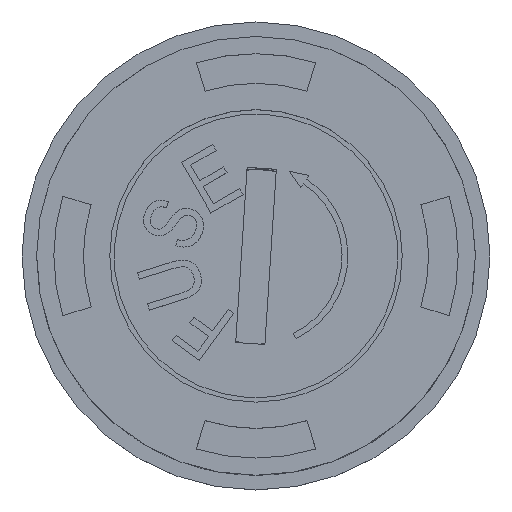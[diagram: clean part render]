
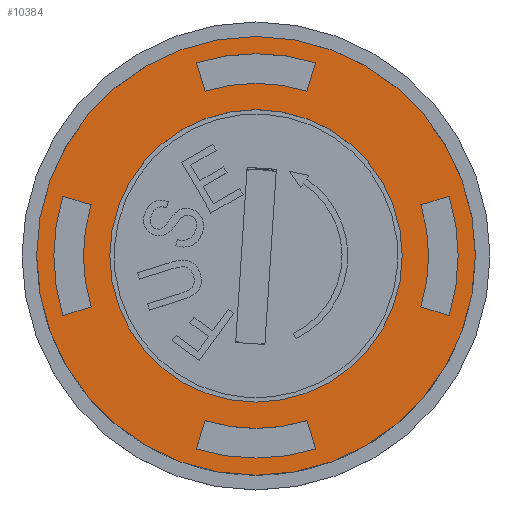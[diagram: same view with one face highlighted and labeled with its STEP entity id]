
A CAD part, top view. The second image highlights one B-rep face of the part: STEP entity #10384.
In plain terms, the highlighted planar face has unit normal (0, 0, 1).
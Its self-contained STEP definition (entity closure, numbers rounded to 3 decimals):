
#73=FACE_BOUND('',#1864,.T.);
#74=FACE_BOUND('',#1865,.T.);
#75=FACE_BOUND('',#1866,.T.);
#76=FACE_BOUND('',#1867,.T.);
#77=FACE_BOUND('',#1868,.T.);
#356=PLANE('',#11109);
#1308=FACE_OUTER_BOUND('',#1863,.T.);
#1863=EDGE_LOOP('',(#9487,#9488));
#1864=EDGE_LOOP('',(#9489,#9490,#9491,#9492));
#1865=EDGE_LOOP('',(#9493,#9494));
#1866=EDGE_LOOP('',(#9495,#9496,#9497,#9498));
#1867=EDGE_LOOP('',(#9499,#9500,#9501,#9502));
#1868=EDGE_LOOP('',(#9503,#9504,#9505,#9506));
#2100=CIRCLE('',#11068,5.9);
#2102=CIRCLE('',#11072,6.913);
#2104=CIRCLE('',#11077,5.9);
#2106=CIRCLE('',#11081,6.913);
#2108=CIRCLE('',#11086,5.9);
#2110=CIRCLE('',#11090,6.913);
#2112=CIRCLE('',#11095,5.9);
#2114=CIRCLE('',#11099,6.913);
#2118=CIRCLE('',#11110,7.5);
#2119=CIRCLE('',#11111,7.5);
#2120=CIRCLE('',#11112,5.);
#2121=CIRCLE('',#11113,5.);
#3074=LINE('',#36828,#3999);
#3079=LINE('',#36842,#4004);
#3082=LINE('',#36853,#4007);
#3087=LINE('',#36867,#4012);
#3090=LINE('',#36878,#4015);
#3095=LINE('',#36892,#4020);
#3098=LINE('',#36903,#4023);
#3103=LINE('',#36917,#4028);
#3999=VECTOR('',#13038,10.);
#4004=VECTOR('',#13051,10.);
#4007=VECTOR('',#13064,10.);
#4012=VECTOR('',#13077,10.);
#4015=VECTOR('',#13090,10.);
#4020=VECTOR('',#13103,10.);
#4023=VECTOR('',#13116,10.);
#4028=VECTOR('',#13129,10.);
#5026=VERTEX_POINT('',#36826);
#5027=VERTEX_POINT('',#36827);
#5030=VERTEX_POINT('',#36835);
#5032=VERTEX_POINT('',#36841);
#5034=VERTEX_POINT('',#36851);
#5035=VERTEX_POINT('',#36852);
#5038=VERTEX_POINT('',#36860);
#5040=VERTEX_POINT('',#36866);
#5042=VERTEX_POINT('',#36876);
#5043=VERTEX_POINT('',#36877);
#5046=VERTEX_POINT('',#36885);
#5048=VERTEX_POINT('',#36891);
#5050=VERTEX_POINT('',#36901);
#5051=VERTEX_POINT('',#36902);
#5054=VERTEX_POINT('',#36910);
#5056=VERTEX_POINT('',#36916);
#5066=VERTEX_POINT('',#36955);
#5067=VERTEX_POINT('',#36956);
#5068=VERTEX_POINT('',#36959);
#5069=VERTEX_POINT('',#36960);
#6519=EDGE_CURVE('',#5026,#5027,#3074,.T.);
#6523=EDGE_CURVE('',#5030,#5026,#2100,.T.);
#6526=EDGE_CURVE('',#5032,#5030,#3079,.T.);
#6529=EDGE_CURVE('',#5027,#5032,#2102,.T.);
#6531=EDGE_CURVE('',#5034,#5035,#3082,.T.);
#6535=EDGE_CURVE('',#5038,#5034,#2104,.T.);
#6538=EDGE_CURVE('',#5040,#5038,#3087,.T.);
#6541=EDGE_CURVE('',#5035,#5040,#2106,.T.);
#6543=EDGE_CURVE('',#5042,#5043,#3090,.T.);
#6547=EDGE_CURVE('',#5046,#5042,#2108,.T.);
#6550=EDGE_CURVE('',#5048,#5046,#3095,.T.);
#6553=EDGE_CURVE('',#5043,#5048,#2110,.T.);
#6555=EDGE_CURVE('',#5050,#5051,#3098,.T.);
#6559=EDGE_CURVE('',#5054,#5050,#2112,.T.);
#6562=EDGE_CURVE('',#5056,#5054,#3103,.T.);
#6565=EDGE_CURVE('',#5051,#5056,#2114,.T.);
#6579=EDGE_CURVE('',#5066,#5067,#2118,.T.);
#6580=EDGE_CURVE('',#5067,#5066,#2119,.T.);
#6581=EDGE_CURVE('',#5068,#5069,#2120,.T.);
#6582=EDGE_CURVE('',#5069,#5068,#2121,.T.);
#9487=ORIENTED_EDGE('',*,*,#6579,.F.);
#9488=ORIENTED_EDGE('',*,*,#6580,.F.);
#9489=ORIENTED_EDGE('',*,*,#6538,.T.);
#9490=ORIENTED_EDGE('',*,*,#6535,.T.);
#9491=ORIENTED_EDGE('',*,*,#6531,.T.);
#9492=ORIENTED_EDGE('',*,*,#6541,.T.);
#9493=ORIENTED_EDGE('',*,*,#6581,.F.);
#9494=ORIENTED_EDGE('',*,*,#6582,.F.);
#9495=ORIENTED_EDGE('',*,*,#6553,.T.);
#9496=ORIENTED_EDGE('',*,*,#6550,.T.);
#9497=ORIENTED_EDGE('',*,*,#6547,.T.);
#9498=ORIENTED_EDGE('',*,*,#6543,.T.);
#9499=ORIENTED_EDGE('',*,*,#6526,.T.);
#9500=ORIENTED_EDGE('',*,*,#6523,.T.);
#9501=ORIENTED_EDGE('',*,*,#6519,.T.);
#9502=ORIENTED_EDGE('',*,*,#6529,.T.);
#9503=ORIENTED_EDGE('',*,*,#6565,.T.);
#9504=ORIENTED_EDGE('',*,*,#6562,.T.);
#9505=ORIENTED_EDGE('',*,*,#6559,.T.);
#9506=ORIENTED_EDGE('',*,*,#6555,.T.);
#10384=ADVANCED_FACE('',(#1308,#73,#74,#75,#76,#77),#356,.T.);
#11068=AXIS2_PLACEMENT_3D('',#36836,#13044,#13045);
#11072=AXIS2_PLACEMENT_3D('',#36847,#13056,#13057);
#11077=AXIS2_PLACEMENT_3D('',#36861,#13070,#13071);
#11081=AXIS2_PLACEMENT_3D('',#36872,#13082,#13083);
#11086=AXIS2_PLACEMENT_3D('',#36886,#13096,#13097);
#11090=AXIS2_PLACEMENT_3D('',#36897,#13108,#13109);
#11095=AXIS2_PLACEMENT_3D('',#36911,#13122,#13123);
#11099=AXIS2_PLACEMENT_3D('',#36922,#13134,#13135);
#11109=AXIS2_PLACEMENT_3D('',#36954,#13162,#13163);
#11110=AXIS2_PLACEMENT_3D('',#36957,#13164,#13165);
#11111=AXIS2_PLACEMENT_3D('',#36958,#13166,#13167);
#11112=AXIS2_PLACEMENT_3D('',#36961,#13168,#13169);
#11113=AXIS2_PLACEMENT_3D('',#36962,#13170,#13171);
#13038=DIRECTION('',(-0.955,-0.296,0.));
#13044=DIRECTION('center_axis',(0.,0.,1.));
#13045=DIRECTION('ref_axis',(-0.955,0.296,0.));
#13051=DIRECTION('',(0.955,-0.296,0.));
#13056=DIRECTION('center_axis',(0.,0.,-1.));
#13057=DIRECTION('ref_axis',(0.955,-0.296,0.));
#13064=DIRECTION('',(-0.296,0.955,0.));
#13070=DIRECTION('center_axis',(0.,0.,1.));
#13071=DIRECTION('ref_axis',(0.296,0.955,0.));
#13077=DIRECTION('',(-0.296,-0.955,0.));
#13082=DIRECTION('center_axis',(0.,0.,-1.));
#13083=DIRECTION('ref_axis',(-0.296,-0.955,0.));
#13090=DIRECTION('',(0.296,-0.955,0.));
#13096=DIRECTION('center_axis',(0.,0.,1.));
#13097=DIRECTION('ref_axis',(-0.296,-0.955,0.));
#13103=DIRECTION('',(0.296,0.955,0.));
#13108=DIRECTION('center_axis',(0.,0.,-1.));
#13109=DIRECTION('ref_axis',(0.296,0.955,0.));
#13116=DIRECTION('',(0.955,0.296,0.));
#13122=DIRECTION('center_axis',(0.,0.,1.));
#13123=DIRECTION('ref_axis',(0.955,-0.296,0.));
#13129=DIRECTION('',(-0.955,0.296,0.));
#13134=DIRECTION('center_axis',(0.,0.,-1.));
#13135=DIRECTION('ref_axis',(-0.955,0.296,0.));
#13162=DIRECTION('center_axis',(0.,0.,1.));
#13163=DIRECTION('ref_axis',(1.,0.,0.));
#13164=DIRECTION('center_axis',(0.,0.,-1.));
#13165=DIRECTION('ref_axis',(1.,0.,0.));
#13166=DIRECTION('center_axis',(0.,0.,-1.));
#13167=DIRECTION('ref_axis',(1.,0.,0.));
#13168=DIRECTION('center_axis',(0.,0.,1.));
#13169=DIRECTION('ref_axis',(1.,0.,0.));
#13170=DIRECTION('center_axis',(0.,0.,1.));
#13171=DIRECTION('ref_axis',(1.,0.,0.));
#36826=CARTESIAN_POINT('',(-5.636,-1.744,2.));
#36827=CARTESIAN_POINT('',(-6.604,-2.043,2.));
#36828=CARTESIAN_POINT('',(-2.818,-0.872,2.));
#36835=CARTESIAN_POINT('',(-5.636,1.744,2.));
#36836=CARTESIAN_POINT('Origin',(0.,0.,2.));
#36841=CARTESIAN_POINT('',(-6.604,2.043,2.));
#36842=CARTESIAN_POINT('',(-3.302,1.021,2.));
#36847=CARTESIAN_POINT('Origin',(0.,0.,2.));
#36851=CARTESIAN_POINT('',(-1.744,5.636,2.));
#36852=CARTESIAN_POINT('',(-2.043,6.604,2.));
#36853=CARTESIAN_POINT('',(-0.872,2.818,2.));
#36860=CARTESIAN_POINT('',(1.744,5.636,2.));
#36861=CARTESIAN_POINT('Origin',(0.,0.,2.));
#36866=CARTESIAN_POINT('',(2.043,6.604,2.));
#36867=CARTESIAN_POINT('',(1.021,3.302,2.));
#36872=CARTESIAN_POINT('Origin',(0.,0.,2.));
#36876=CARTESIAN_POINT('',(1.744,-5.636,2.));
#36877=CARTESIAN_POINT('',(2.043,-6.604,2.));
#36878=CARTESIAN_POINT('',(0.872,-2.818,2.));
#36885=CARTESIAN_POINT('',(-1.744,-5.636,2.));
#36886=CARTESIAN_POINT('Origin',(0.,0.,2.));
#36891=CARTESIAN_POINT('',(-2.043,-6.604,2.));
#36892=CARTESIAN_POINT('',(-1.021,-3.302,2.));
#36897=CARTESIAN_POINT('Origin',(0.,0.,2.));
#36901=CARTESIAN_POINT('',(5.636,1.744,2.));
#36902=CARTESIAN_POINT('',(6.604,2.043,2.));
#36903=CARTESIAN_POINT('',(2.818,0.872,2.));
#36910=CARTESIAN_POINT('',(5.636,-1.744,2.));
#36911=CARTESIAN_POINT('Origin',(0.,0.,2.));
#36916=CARTESIAN_POINT('',(6.604,-2.043,2.));
#36917=CARTESIAN_POINT('',(3.302,-1.021,2.));
#36922=CARTESIAN_POINT('Origin',(0.,0.,2.));
#36954=CARTESIAN_POINT('Origin',(0.,0.,
2.));
#36955=CARTESIAN_POINT('',(7.5,0.,2.));
#36956=CARTESIAN_POINT('',(-7.5,0.,2.));
#36957=CARTESIAN_POINT('Origin',(0.,0.,2.));
#36958=CARTESIAN_POINT('Origin',(0.,0.,2.));
#36959=CARTESIAN_POINT('',(0.,-5.,2.));
#36960=CARTESIAN_POINT('',(-5.,0.,2.));
#36961=CARTESIAN_POINT('Origin',(0.,0.,2.));
#36962=CARTESIAN_POINT('Origin',(0.,0.,2.));
